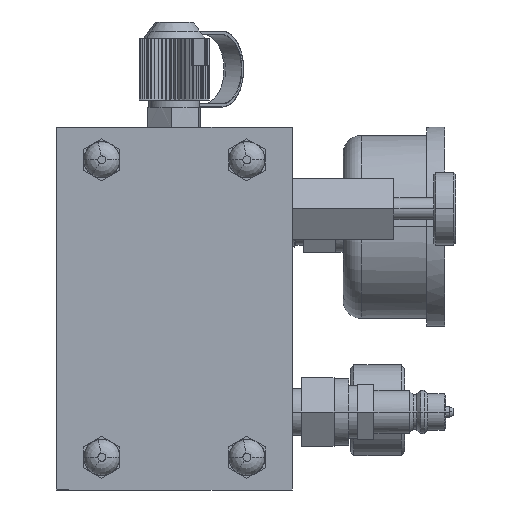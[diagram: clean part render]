
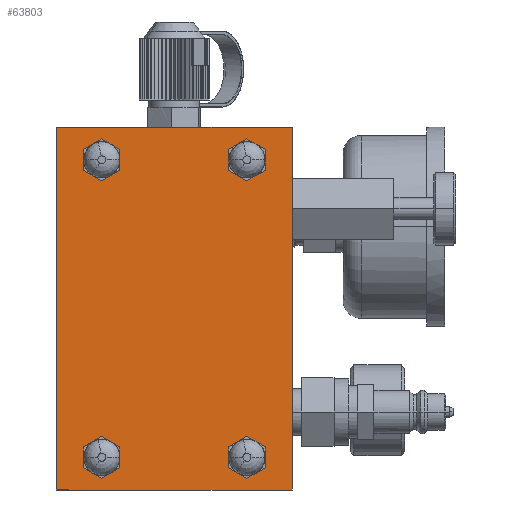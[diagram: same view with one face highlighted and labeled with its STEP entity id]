
A CAD part, front view. The second image highlights one B-rep face of the part: STEP entity #63803.
In plain terms, the highlighted planar face has unit normal (0, -1, 0).
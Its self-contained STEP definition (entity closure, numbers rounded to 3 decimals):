
#63564=CARTESIAN_POINT('Axis2P3D Location',(0.,0.,0.)) ;
#63569=CARTESIAN_POINT('Line Origine',(0.,0.,50.)) ;
#63573=CARTESIAN_POINT('Vertex',(0.,0.,100.)) ;
#63575=CARTESIAN_POINT('Vertex',(0.,0.,0.)) ;
#63578=CARTESIAN_POINT('Line Origine',(-32.5,0.,100.)) ;
#63582=CARTESIAN_POINT('Vertex',(-65.,0.,100.)) ;
#63585=CARTESIAN_POINT('Line Origine',(-65.,0.,50.)) ;
#63589=CARTESIAN_POINT('Vertex',(-65.,0.,0.)) ;
#63592=CARTESIAN_POINT('Line Origine',(-32.5,0.,0.)) ;
#63603=CARTESIAN_POINT('Line Origine',(-10.,0.,95.33)) ;
#63607=CARTESIAN_POINT('Vertex',(-7.5,0.,93.887)) ;
#63609=CARTESIAN_POINT('Vertex',(-12.5,0.,96.774)) ;
#63612=CARTESIAN_POINT('Line Origine',(-7.5,0.,91.)) ;
#63616=CARTESIAN_POINT('Vertex',(-7.5,0.,88.113)) ;
#63619=CARTESIAN_POINT('Line Origine',(-10.,0.,86.67)) ;
#63623=CARTESIAN_POINT('Vertex',(-12.5,0.,85.226)) ;
#63626=CARTESIAN_POINT('Line Origine',(-15.,0.,86.67)) ;
#63630=CARTESIAN_POINT('Vertex',(-17.5,0.,88.113)) ;
#63633=CARTESIAN_POINT('Line Origine',(-17.5,0.,91.)) ;
#63637=CARTESIAN_POINT('Vertex',(-17.5,0.,93.887)) ;
#63640=CARTESIAN_POINT('Line Origine',(-15.,0.,95.33)) ;
#63653=CARTESIAN_POINT('Line Origine',(-50.,0.,95.33)) ;
#63657=CARTESIAN_POINT('Vertex',(-47.5,0.,93.887)) ;
#63659=CARTESIAN_POINT('Vertex',(-52.5,0.,96.774)) ;
#63662=CARTESIAN_POINT('Line Origine',(-47.5,0.,91.)) ;
#63666=CARTESIAN_POINT('Vertex',(-47.5,0.,88.113)) ;
#63669=CARTESIAN_POINT('Line Origine',(-50.,0.,86.67)) ;
#63673=CARTESIAN_POINT('Vertex',(-52.5,0.,85.226)) ;
#63676=CARTESIAN_POINT('Line Origine',(-55.,0.,86.67)) ;
#63680=CARTESIAN_POINT('Vertex',(-57.5,0.,88.113)) ;
#63683=CARTESIAN_POINT('Line Origine',(-57.5,0.,91.)) ;
#63687=CARTESIAN_POINT('Vertex',(-57.5,0.,93.887)) ;
#63690=CARTESIAN_POINT('Line Origine',(-55.,0.,95.33)) ;
#63703=CARTESIAN_POINT('Line Origine',(-10.,0.,13.33)) ;
#63707=CARTESIAN_POINT('Vertex',(-7.5,0.,11.887)) ;
#63709=CARTESIAN_POINT('Vertex',(-12.5,0.,14.774)) ;
#63712=CARTESIAN_POINT('Line Origine',(-7.5,0.,9.)) ;
#63716=CARTESIAN_POINT('Vertex',(-7.5,0.,6.113)) ;
#63719=CARTESIAN_POINT('Line Origine',(-10.,0.,4.67)) ;
#63723=CARTESIAN_POINT('Vertex',(-12.5,0.,3.226)) ;
#63726=CARTESIAN_POINT('Line Origine',(-15.,0.,4.67)) ;
#63730=CARTESIAN_POINT('Vertex',(-17.5,0.,6.113)) ;
#63733=CARTESIAN_POINT('Line Origine',(-17.5,0.,9.)) ;
#63737=CARTESIAN_POINT('Vertex',(-17.5,0.,11.887)) ;
#63740=CARTESIAN_POINT('Line Origine',(-15.,0.,13.33)) ;
#63753=CARTESIAN_POINT('Line Origine',(-50.,0.,13.33)) ;
#63757=CARTESIAN_POINT('Vertex',(-47.5,0.,11.887)) ;
#63759=CARTESIAN_POINT('Vertex',(-52.5,0.,14.774)) ;
#63762=CARTESIAN_POINT('Line Origine',(-47.5,0.,9.)) ;
#63766=CARTESIAN_POINT('Vertex',(-47.5,0.,6.113)) ;
#63769=CARTESIAN_POINT('Line Origine',(-50.,0.,4.67)) ;
#63773=CARTESIAN_POINT('Vertex',(-52.5,0.,3.226)) ;
#63776=CARTESIAN_POINT('Line Origine',(-55.,0.,4.67)) ;
#63780=CARTESIAN_POINT('Vertex',(-57.5,0.,6.113)) ;
#63783=CARTESIAN_POINT('Line Origine',(-57.5,0.,9.)) ;
#63787=CARTESIAN_POINT('Vertex',(-57.5,0.,11.887)) ;
#63790=CARTESIAN_POINT('Line Origine',(-55.,0.,13.33)) ;
#63565=DIRECTION('Axis2P3D Direction',(0.,1.,0.)) ;
#63566=DIRECTION('Axis2P3D XDirection',(-1.,0.,0.)) ;
#63570=DIRECTION('Vector Direction',(0.,0.,-1.)) ;
#63579=DIRECTION('Vector Direction',(1.,0.,0.)) ;
#63586=DIRECTION('Vector Direction',(0.,0.,1.)) ;
#63593=DIRECTION('Vector Direction',(-1.,0.,0.)) ;
#63604=DIRECTION('Vector Direction',(-0.866,0.,0.5)) ;
#63613=DIRECTION('Vector Direction',(0.,0.,1.)) ;
#63620=DIRECTION('Vector Direction',(0.866,0.,0.5)) ;
#63627=DIRECTION('Vector Direction',(0.866,0.,-0.5)) ;
#63634=DIRECTION('Vector Direction',(0.,0.,-1.)) ;
#63641=DIRECTION('Vector Direction',(-0.866,0.,-0.5)) ;
#63654=DIRECTION('Vector Direction',(-0.866,0.,0.5)) ;
#63663=DIRECTION('Vector Direction',(0.,0.,1.)) ;
#63670=DIRECTION('Vector Direction',(0.866,0.,0.5)) ;
#63677=DIRECTION('Vector Direction',(0.866,0.,-0.5)) ;
#63684=DIRECTION('Vector Direction',(0.,0.,-1.)) ;
#63691=DIRECTION('Vector Direction',(-0.866,0.,-0.5)) ;
#63704=DIRECTION('Vector Direction',(-0.866,0.,0.5)) ;
#63713=DIRECTION('Vector Direction',(0.,0.,1.)) ;
#63720=DIRECTION('Vector Direction',(0.866,0.,0.5)) ;
#63727=DIRECTION('Vector Direction',(0.866,0.,-0.5)) ;
#63734=DIRECTION('Vector Direction',(0.,0.,-1.)) ;
#63741=DIRECTION('Vector Direction',(-0.866,0.,-0.5)) ;
#63754=DIRECTION('Vector Direction',(-0.866,0.,0.5)) ;
#63763=DIRECTION('Vector Direction',(0.,0.,1.)) ;
#63770=DIRECTION('Vector Direction',(0.866,0.,0.5)) ;
#63777=DIRECTION('Vector Direction',(0.866,0.,-0.5)) ;
#63784=DIRECTION('Vector Direction',(0.,0.,-1.)) ;
#63791=DIRECTION('Vector Direction',(-0.866,0.,-0.5)) ;
#63567=AXIS2_PLACEMENT_3D('Plane Axis2P3D',#63564,#63565,#63566) ;
#63598=ORIENTED_EDGE('',*,*,#63577,.F.) ;
#63599=ORIENTED_EDGE('',*,*,#63584,.F.) ;
#63600=ORIENTED_EDGE('',*,*,#63591,.F.) ;
#63601=ORIENTED_EDGE('',*,*,#63596,.F.) ;
#63646=ORIENTED_EDGE('',*,*,#63611,.F.) ;
#63647=ORIENTED_EDGE('',*,*,#63618,.F.) ;
#63648=ORIENTED_EDGE('',*,*,#63625,.F.) ;
#63649=ORIENTED_EDGE('',*,*,#63632,.F.) ;
#63650=ORIENTED_EDGE('',*,*,#63639,.F.) ;
#63651=ORIENTED_EDGE('',*,*,#63644,.F.) ;
#63696=ORIENTED_EDGE('',*,*,#63661,.F.) ;
#63697=ORIENTED_EDGE('',*,*,#63668,.F.) ;
#63698=ORIENTED_EDGE('',*,*,#63675,.F.) ;
#63699=ORIENTED_EDGE('',*,*,#63682,.F.) ;
#63700=ORIENTED_EDGE('',*,*,#63689,.F.) ;
#63701=ORIENTED_EDGE('',*,*,#63694,.F.) ;
#63746=ORIENTED_EDGE('',*,*,#63711,.F.) ;
#63747=ORIENTED_EDGE('',*,*,#63718,.F.) ;
#63748=ORIENTED_EDGE('',*,*,#63725,.F.) ;
#63749=ORIENTED_EDGE('',*,*,#63732,.F.) ;
#63750=ORIENTED_EDGE('',*,*,#63739,.F.) ;
#63751=ORIENTED_EDGE('',*,*,#63744,.F.) ;
#63796=ORIENTED_EDGE('',*,*,#63761,.F.) ;
#63797=ORIENTED_EDGE('',*,*,#63768,.F.) ;
#63798=ORIENTED_EDGE('',*,*,#63775,.F.) ;
#63799=ORIENTED_EDGE('',*,*,#63782,.F.) ;
#63800=ORIENTED_EDGE('',*,*,#63789,.F.) ;
#63801=ORIENTED_EDGE('',*,*,#63794,.F.) ;
#63652=FACE_BOUND('',#63645,.T.) ;
#63702=FACE_BOUND('',#63695,.T.) ;
#63752=FACE_BOUND('',#63745,.T.) ;
#63802=FACE_BOUND('',#63795,.T.) ;
#63571=VECTOR('Line Direction',#63570,1.) ;
#63580=VECTOR('Line Direction',#63579,1.) ;
#63587=VECTOR('Line Direction',#63586,1.) ;
#63594=VECTOR('Line Direction',#63593,1.) ;
#63605=VECTOR('Line Direction',#63604,1.) ;
#63614=VECTOR('Line Direction',#63613,1.) ;
#63621=VECTOR('Line Direction',#63620,1.) ;
#63628=VECTOR('Line Direction',#63627,1.) ;
#63635=VECTOR('Line Direction',#63634,1.) ;
#63642=VECTOR('Line Direction',#63641,1.) ;
#63655=VECTOR('Line Direction',#63654,1.) ;
#63664=VECTOR('Line Direction',#63663,1.) ;
#63671=VECTOR('Line Direction',#63670,1.) ;
#63678=VECTOR('Line Direction',#63677,1.) ;
#63685=VECTOR('Line Direction',#63684,1.) ;
#63692=VECTOR('Line Direction',#63691,1.) ;
#63705=VECTOR('Line Direction',#63704,1.) ;
#63714=VECTOR('Line Direction',#63713,1.) ;
#63721=VECTOR('Line Direction',#63720,1.) ;
#63728=VECTOR('Line Direction',#63727,1.) ;
#63735=VECTOR('Line Direction',#63734,1.) ;
#63742=VECTOR('Line Direction',#63741,1.) ;
#63755=VECTOR('Line Direction',#63754,1.) ;
#63764=VECTOR('Line Direction',#63763,1.) ;
#63771=VECTOR('Line Direction',#63770,1.) ;
#63778=VECTOR('Line Direction',#63777,1.) ;
#63785=VECTOR('Line Direction',#63784,1.) ;
#63792=VECTOR('Line Direction',#63791,1.) ;
#63803=ADVANCED_FACE('',(#63602,#63652,#63702,#63752,#63802),#63568,.F.) ;
#63577=EDGE_CURVE('',#63574,#63576,#63572,.T.) ;
#63584=EDGE_CURVE('',#63583,#63574,#63581,.T.) ;
#63591=EDGE_CURVE('',#63590,#63583,#63588,.T.) ;
#63596=EDGE_CURVE('',#63576,#63590,#63595,.T.) ;
#63611=EDGE_CURVE('',#63608,#63610,#63606,.T.) ;
#63618=EDGE_CURVE('',#63617,#63608,#63615,.T.) ;
#63625=EDGE_CURVE('',#63624,#63617,#63622,.T.) ;
#63632=EDGE_CURVE('',#63631,#63624,#63629,.T.) ;
#63639=EDGE_CURVE('',#63638,#63631,#63636,.T.) ;
#63644=EDGE_CURVE('',#63610,#63638,#63643,.T.) ;
#63661=EDGE_CURVE('',#63658,#63660,#63656,.T.) ;
#63668=EDGE_CURVE('',#63667,#63658,#63665,.T.) ;
#63675=EDGE_CURVE('',#63674,#63667,#63672,.T.) ;
#63682=EDGE_CURVE('',#63681,#63674,#63679,.T.) ;
#63689=EDGE_CURVE('',#63688,#63681,#63686,.T.) ;
#63694=EDGE_CURVE('',#63660,#63688,#63693,.T.) ;
#63711=EDGE_CURVE('',#63708,#63710,#63706,.T.) ;
#63718=EDGE_CURVE('',#63717,#63708,#63715,.T.) ;
#63725=EDGE_CURVE('',#63724,#63717,#63722,.T.) ;
#63732=EDGE_CURVE('',#63731,#63724,#63729,.T.) ;
#63739=EDGE_CURVE('',#63738,#63731,#63736,.T.) ;
#63744=EDGE_CURVE('',#63710,#63738,#63743,.T.) ;
#63761=EDGE_CURVE('',#63758,#63760,#63756,.T.) ;
#63768=EDGE_CURVE('',#63767,#63758,#63765,.T.) ;
#63775=EDGE_CURVE('',#63774,#63767,#63772,.T.) ;
#63782=EDGE_CURVE('',#63781,#63774,#63779,.T.) ;
#63789=EDGE_CURVE('',#63788,#63781,#63786,.T.) ;
#63794=EDGE_CURVE('',#63760,#63788,#63793,.T.) ;
#63597=EDGE_LOOP('',(#63598,#63599,#63600,#63601)) ;
#63645=EDGE_LOOP('',(#63646,#63647,#63648,#63649,#63650,#63651)) ;
#63695=EDGE_LOOP('',(#63696,#63697,#63698,#63699,#63700,#63701)) ;
#63745=EDGE_LOOP('',(#63746,#63747,#63748,#63749,#63750,#63751)) ;
#63795=EDGE_LOOP('',(#63796,#63797,#63798,#63799,#63800,#63801)) ;
#63602=FACE_OUTER_BOUND('',#63597,.T.) ;
#63572=LINE('Line',#63569,#63571) ;
#63581=LINE('Line',#63578,#63580) ;
#63588=LINE('Line',#63585,#63587) ;
#63595=LINE('Line',#63592,#63594) ;
#63606=LINE('Line',#63603,#63605) ;
#63615=LINE('Line',#63612,#63614) ;
#63622=LINE('Line',#63619,#63621) ;
#63629=LINE('Line',#63626,#63628) ;
#63636=LINE('Line',#63633,#63635) ;
#63643=LINE('Line',#63640,#63642) ;
#63656=LINE('Line',#63653,#63655) ;
#63665=LINE('Line',#63662,#63664) ;
#63672=LINE('Line',#63669,#63671) ;
#63679=LINE('Line',#63676,#63678) ;
#63686=LINE('Line',#63683,#63685) ;
#63693=LINE('Line',#63690,#63692) ;
#63706=LINE('Line',#63703,#63705) ;
#63715=LINE('Line',#63712,#63714) ;
#63722=LINE('Line',#63719,#63721) ;
#63729=LINE('Line',#63726,#63728) ;
#63736=LINE('Line',#63733,#63735) ;
#63743=LINE('Line',#63740,#63742) ;
#63756=LINE('Line',#63753,#63755) ;
#63765=LINE('Line',#63762,#63764) ;
#63772=LINE('Line',#63769,#63771) ;
#63779=LINE('Line',#63776,#63778) ;
#63786=LINE('Line',#63783,#63785) ;
#63793=LINE('Line',#63790,#63792) ;
#63568=PLANE('Plane',#63567) ;
#63574=VERTEX_POINT('',#63573) ;
#63576=VERTEX_POINT('',#63575) ;
#63583=VERTEX_POINT('',#63582) ;
#63590=VERTEX_POINT('',#63589) ;
#63608=VERTEX_POINT('',#63607) ;
#63610=VERTEX_POINT('',#63609) ;
#63617=VERTEX_POINT('',#63616) ;
#63624=VERTEX_POINT('',#63623) ;
#63631=VERTEX_POINT('',#63630) ;
#63638=VERTEX_POINT('',#63637) ;
#63658=VERTEX_POINT('',#63657) ;
#63660=VERTEX_POINT('',#63659) ;
#63667=VERTEX_POINT('',#63666) ;
#63674=VERTEX_POINT('',#63673) ;
#63681=VERTEX_POINT('',#63680) ;
#63688=VERTEX_POINT('',#63687) ;
#63708=VERTEX_POINT('',#63707) ;
#63710=VERTEX_POINT('',#63709) ;
#63717=VERTEX_POINT('',#63716) ;
#63724=VERTEX_POINT('',#63723) ;
#63731=VERTEX_POINT('',#63730) ;
#63738=VERTEX_POINT('',#63737) ;
#63758=VERTEX_POINT('',#63757) ;
#63760=VERTEX_POINT('',#63759) ;
#63767=VERTEX_POINT('',#63766) ;
#63774=VERTEX_POINT('',#63773) ;
#63781=VERTEX_POINT('',#63780) ;
#63788=VERTEX_POINT('',#63787) ;
